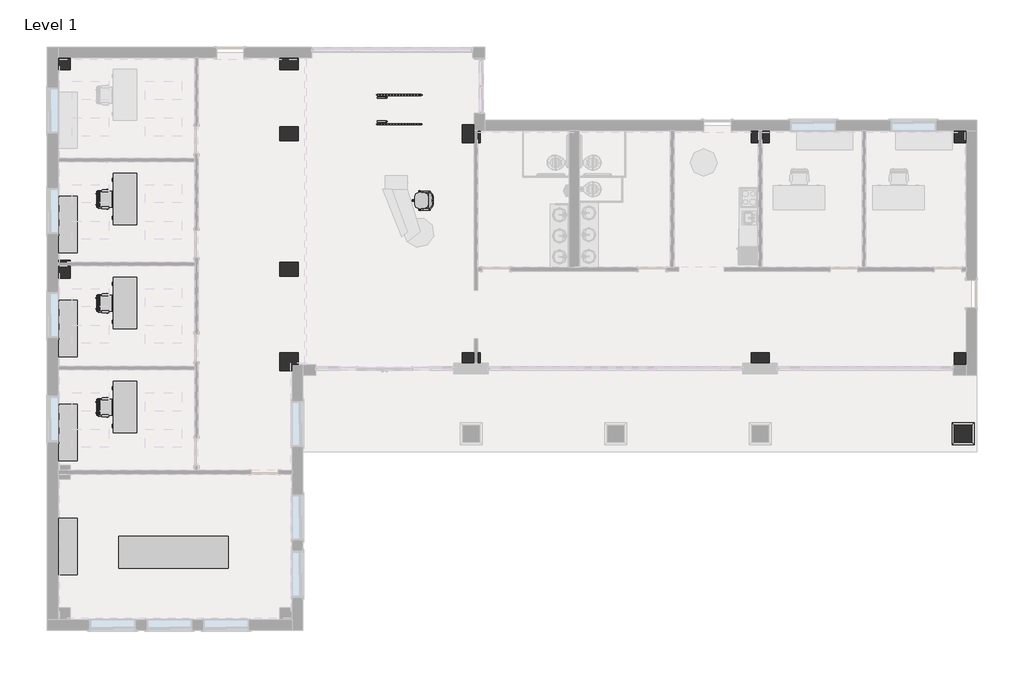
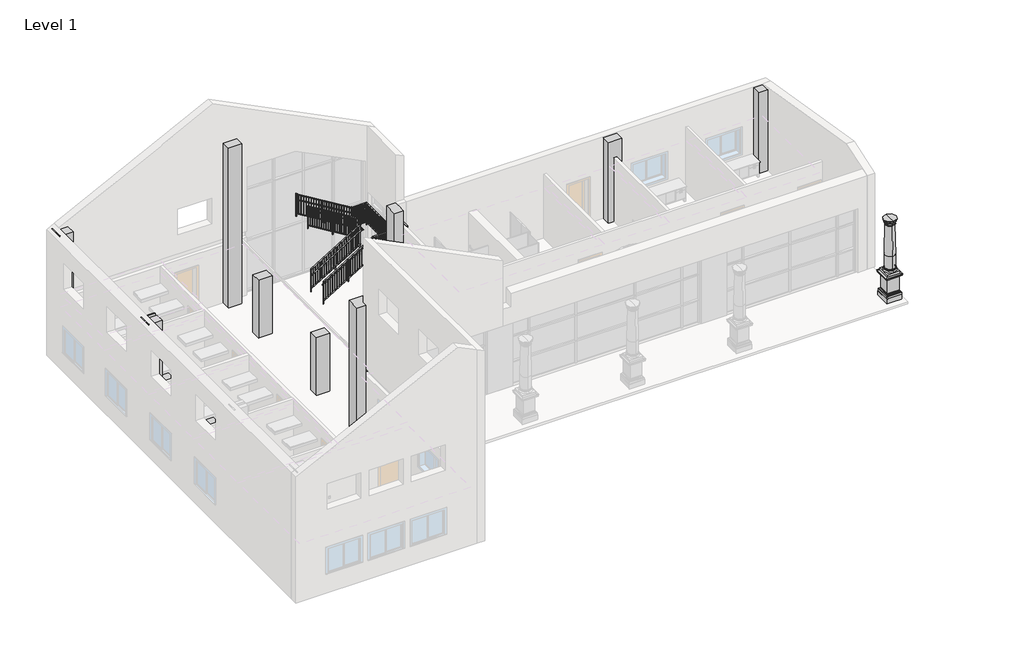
# One storey, part 7 of 8: 13 columns, 12 furniture elements, 2 railings.
"""IFC4 building model written with IfcOpenShell, lengths in millimetres."""

from ifc_helpers import new_model, si_unit, point, frame, origin, origin_with_axes, place, context, project, spatial, polyline, circle_curve, ellipse_curve, trimmed, outline, extrude, faceted_brep, transform, mapped, element, save
from ifc_brep_helpers import plane_surface, cylinder_surface, revolved_surface, advanced_brep
from components import chair_executive_chair_executive_8d69e98c, chair_task_arms_chair_task_arms_8395c10b, conference_table_complete_42_x_144_00e9c4b6, furniture_5a5a5c8e, furniture_9d33da18, ldc_handrail_pipe_vertical_balusters_fcc166f6, ldc_handrail_pipe_vertical_balusters_f98cdef8, ldc_handrail_pipe_vertical_balusters_a562cb55, ldc_handrail_pipe_vertical_balusters_60b1d99e, ldc_handrail_pipe_vertical_balusters_fc0078cb, ldc_handrail_pipe_vertical_balusters_81ec86d5

model = new_model("IFC4")

# Units and contexts
model_context = context("Model", 3, world=origin())
ifc_project = project(units=[si_unit("LENGTHUNIT", "METRE", prefix="MILLI")], contexts=[model_context])

# Site, building, storey
site = spatial("IfcSite", under=ifc_project)
building = spatial("IfcBuilding", under=site)
storey = spatial("IfcBuildingStorey", under=building, Name="Level 1", Elevation=0.0)

# Columns
placement = place(None, origin())
element("IfcColumn", 1, ObjectType="Doric Column : 16'  Height (10 2/3 x Dia.)", at=placement, inside=storey, context=model_context, shape_type="SolidModel", body=[
    extrude(outline(polyline([(16988.3733448, -1720.0769576), (16988.3733448, -2297.9269576), (16410.5233448, -2297.9269576), (16410.5233448, -1720.0769576), (16988.3733448, -1720.0769576)])), frame((0.0, 0.0, 1117.6), z_axis=(0.0, 0.0, 1.0), x_axis=(1.0, 0.0, 0.0)), (0.0, 0.0, 1.0), 107.95),
    faceted_brep([(16470.8483448, -2237.6019576, 1117.6), (16327.9733448, -2380.4769576, 1117.6), (17070.9233448, -2380.4769576, 1117.6), (16928.0483448, -2237.6019576, 1117.6), (16470.8483448, -2237.6019576, 1003.3), (16928.0483448, -2237.6019576, 1003.3), (16399.5654277, -2308.8848746, 1003.3), (16999.3312619, -2308.8848746, 1003.3), (16366.0733448, -2342.3769576, 1028.7), (17032.8233448, -2342.3769576, 1028.7), (16340.6733448, -2367.7769576, 1028.7), (17058.2233448, -2367.7769576, 1028.7), (16340.6733448, -2367.7769576, 1092.2), (17058.2233448, -2367.7769576, 1092.2), (16327.9733448, -2380.4769576, 1092.2), (17070.9233448, -2380.4769576, 1092.2), (17070.9233448, -1637.5269576, 1117.6), (16928.0483448, -1780.4019576, 1117.6), (16928.0483448, -1780.4019576, 1003.3), (16999.3312619, -1709.1190405, 1003.3), (17032.8233448, -1675.6269576, 1028.7), (17058.2233448, -1650.2269576, 1028.7), (17058.2233448, -1650.2269576, 1092.2), (17070.9233448, -1637.5269576, 1092.2), (16327.9733448, -1637.5269576, 1117.6), (16470.8483448, -1780.4019576, 1117.6), (16470.8483448, -1780.4019576, 1003.3), (16399.5654277, -1709.1190405, 1003.3), (16366.0733448, -1675.6269576, 1028.7), (16340.6733448, -1650.2269576, 1028.7), (16340.6733448, -1650.2269576, 1092.2), (16327.9733448, -1637.5269576, 1092.2)], [[[0, 1, 2, 3]], [[4, 0, 3, 5]], [[6, 4, 5, 7]], [[8, 6, 7, 9]], [[10, 8, 9, 11]], [[12, 10, 11, 13]], [[14, 12, 13, 15]], [[1, 14, 15, 2]], [[3, 2, 16, 17]], [[5, 3, 17, 18]], [[7, 5, 18, 19]], [[9, 7, 19, 20]], [[11, 9, 20, 21]], [[13, 11, 21, 22]], [[15, 13, 22, 23]], [[2, 15, 23, 16]], [[17, 16, 24, 25]], [[18, 17, 25, 26]], [[19, 18, 26, 27]], [[20, 19, 27, 28]], [[21, 20, 28, 29]], [[22, 21, 29, 30]], [[23, 22, 30, 31]], [[16, 23, 31, 24]], [[25, 24, 1, 0]], [[26, 25, 0, 4]], [[27, 26, 4, 6]], [[28, 27, 6, 8]], [[29, 28, 8, 10]], [[30, 29, 10, 12]], [[31, 30, 12, 14]], [[24, 31, 14, 1]]]),
    advanced_brep(
    [(16699.4483448, -2256.6519576, 1358.9), (16699.4483448, -1761.3519576, 1358.9), (16699.4483448, -1780.4019576, 1377.95), (16699.4483448, -2237.6019576, 1377.95), (16699.4483448, -1780.4019576, 1976.1708333), (16699.4483448, -2237.6019576, 1976.1708333), (16699.4483448, -2256.6519576, 1339.85), (16699.4483448, -1761.3519576, 1339.85), (16699.4483448, -2256.6519576, 1308.1), (16699.4483448, -1761.3519576, 1308.1), (16699.4483448, -2256.6519576, 1225.55), (16699.4483448, -1761.3519576, 1225.55), (16699.4483448, -2009.0019576, 1225.55), (16699.4483448, -1808.9769576, 3439.3125), (16699.4483448, -2209.0269576, 3439.3125), (16699.4483448, -2301.1019576, 3674.2625601), (16699.4483448, -1716.9019576, 3674.2625601), (16699.4483448, -1716.9019576, 3693.3125), (16699.4483448, -2301.1019576, 3693.3125), (16699.4483448, -2009.0019576, 3693.3125), (16699.4483448, -2282.0518974, 3655.2125), (16699.4483448, -1735.9520177, 3655.2125), (16699.4483448, -2278.8769576, 3655.2125), (16699.4483448, -1739.1269576, 3655.2125), (16699.4483448, -2278.8769576, 3604.4125), (16699.4483448, -1739.1269576, 3604.4125), (16699.4483448, -2272.5269576, 3604.4125), (16699.4483448, -1745.4769576, 3604.4125), (16699.4483448, -2228.0769576, 3559.9625), (16699.4483448, -1789.9269576, 3559.9625), (16699.4483448, -2228.0769576, 3540.9125), (16699.4483448, -1789.9269576, 3540.9125), (16699.4483448, -2209.0269576, 3540.9125), (16699.4483448, -1808.9769576, 3540.9125), (16699.4483448, -2209.0269576, 3458.3625), (16699.4483448, -1808.9769576, 3458.3625), (16699.4483448, -2228.0769576, 3458.3625), (16699.4483448, -1789.9269576, 3458.3625), (16699.4483448, -2228.0769576, 3439.3125), (16699.4483448, -1789.9269576, 3439.3125)],
    [
        (0, 1, circle_curve(frame((16699.4483448, -2009.0019576, 1358.9), z_axis=(0.0, 0.0, 1.0), x_axis=(0.0, 1.0, 0.0)), 247.65)),
        (1, 2, circle_curve(frame((16699.4483448, -1761.3519576, 1377.95), z_axis=(-1.0, 0.0, 0.0), x_axis=(0.0, -1.0, 0.0)), 19.05)),
        (2, 3, circle_curve(frame((16699.4483448, -2009.0019576, 1377.95), z_axis=(0.0, 0.0, -1.0), x_axis=(0.0, 1.0, 0.0)), 228.6)),
        (3, 0, circle_curve(frame((16699.4483448, -2256.6519576, 1377.95), z_axis=(-1.0, 0.0, 0.0), x_axis=(0.0, 1.0, 0.0)), 19.05)),
        (2, 4),
        (4, 5, circle_curve(frame((16699.4483448, -2009.0019576, 1976.1708333), z_axis=(0.0, 0.0, -1.0), x_axis=(0.0, 1.0, 0.0)), 228.6)),
        (5, 3),
        (2, 3, circle_curve(frame((16699.4483448, -2009.0019576, 1377.95), z_axis=(0.0, 0.0, 1.0), x_axis=(0.0, 1.0, 0.0)), 228.6)),
        (5, 4, circle_curve(frame((16699.4483448, -2009.0019576, 1976.1708333), z_axis=(0.0, 0.0, -1.0), x_axis=(0.0, 1.0, 0.0)), 228.6)),
        (1, 0, circle_curve(frame((16699.4483448, -2009.0019576, 1358.9), z_axis=(0.0, 0.0, 1.0), x_axis=(0.0, 1.0, 0.0)), 247.65)),
        (6, 7, circle_curve(frame((16699.4483448, -2009.0019576, 1339.85), z_axis=(0.0, 0.0, 1.0), x_axis=(0.0, 1.0, 0.0)), 247.65)),
        (7, 1),
        (0, 6),
        (7, 6, circle_curve(frame((16699.4483448, -2009.0019576, 1339.85), z_axis=(0.0, 0.0, 1.0), x_axis=(0.0, 1.0, 0.0)), 247.65)),
        (8, 9, circle_curve(frame((16699.4483448, -2009.0019576, 1308.1), z_axis=(0.0, 0.0, 1.0), x_axis=(0.0, 1.0, 0.0)), 247.65)),
        (9, 7, circle_curve(frame((16699.4483448, -1761.3519576, 1323.975), z_axis=(1.0, 0.0, 0.0), x_axis=(0.0, -1.0, 0.0)), 15.875)),
        (6, 8, circle_curve(frame((16699.4483448, -2256.6519576, 1323.975), z_axis=(1.0, 0.0, 0.0), x_axis=(0.0, 1.0, 0.0)), 15.875)),
        (9, 8, circle_curve(frame((16699.4483448, -2009.0019576, 1308.1), z_axis=(0.0, 0.0, 1.0), x_axis=(0.0, 1.0, 0.0)), 247.65)),
        (10, 11, circle_curve(frame((16699.4483448, -2009.0019576, 1225.55), z_axis=(0.0, 0.0, 1.0), x_axis=(0.0, 1.0, 0.0)), 247.65)),
        (11, 9, circle_curve(frame((16699.4483448, -1761.3519576, 1266.825), z_axis=(1.0, 0.0, 0.0), x_axis=(0.0, -1.0, 0.0)), 41.275)),
        (8, 10, circle_curve(frame((16699.4483448, -2256.6519576, 1266.825), z_axis=(1.0, 0.0, 0.0), x_axis=(0.0, 1.0, 0.0)), 41.275)),
        (11, 10, circle_curve(frame((16699.4483448, -2009.0019576, 1225.55), z_axis=(0.0, 0.0, 1.0), x_axis=(0.0, 1.0, 0.0)), 247.65)),
        (12, 11),
        (10, 12),
        (4, 13),
        (13, 14, circle_curve(frame((16699.4483448, -2009.0019576, 3439.3125), z_axis=(0.0, 0.0, -1.0), x_axis=(0.0, 1.0, 0.0)), 200.025)),
        (14, 5),
        (14, 13, circle_curve(frame((16699.4483448, -2009.0019576, 3439.3125), z_axis=(0.0, 0.0, -1.0), x_axis=(0.0, 1.0, 0.0)), 200.025)),
        (15, 16, circle_curve(frame((16699.4483448, -2009.0019576, 3674.2625601), z_axis=(0.0, 0.0, 1.0), x_axis=(0.0, 1.0, 0.0)), 292.1)),
        (16, 17),
        (17, 18, circle_curve(frame((16699.4483448, -2009.0019576, 3693.3125), z_axis=(0.0, 0.0, -1.0), x_axis=(0.0, 1.0, 0.0)), 292.1)),
        (18, 15),
        (17, 19),
        (19, 18),
        (17, 18, circle_curve(frame((16699.4483448, -2009.0019576, 3693.3125), z_axis=(0.0, 0.0, 1.0), x_axis=(0.0, 1.0, 0.0)), 292.1)),
        (16, 15, circle_curve(frame((16699.4483448, -2009.0019576, 3674.2625601), z_axis=(0.0, 0.0, 1.0), x_axis=(0.0, 1.0, 0.0)), 292.1)),
        (20, 21, circle_curve(frame((16699.4483448, -2009.0019576, 3655.2125), z_axis=(0.0, 0.0, 1.0), x_axis=(0.0, 1.0, 0.0)), 273.0499399)),
        (21, 16, circle_curve(frame((16699.4483448, -1716.9019576, 3655.2125), z_axis=(-1.0, 0.0, 0.0), x_axis=(0.0, -1.0, 0.0)), 19.0500601)),
        (15, 20, circle_curve(frame((16699.4483448, -2301.1019576, 3655.2125), z_axis=(-1.0, 0.0, 0.0), x_axis=(0.0, 1.0, 0.0)), 19.0500601)),
        (21, 20, circle_curve(frame((16699.4483448, -2009.0019576, 3655.2125), z_axis=(0.0, 0.0, 1.0), x_axis=(0.0, 1.0, 0.0)), 273.0499399)),
        (22, 23, circle_curve(frame((16699.4483448, -2009.0019576, 3655.2125), z_axis=(0.0, 0.0, 1.0), x_axis=(0.0, 1.0, 0.0)), 269.875)),
        (23, 21),
        (20, 22),
        (23, 22, circle_curve(frame((16699.4483448, -2009.0019576, 3655.2125), z_axis=(0.0, 0.0, 1.0), x_axis=(0.0, 1.0, 0.0)), 269.875)),
        (24, 25, circle_curve(frame((16699.4483448, -2009.0019576, 3604.4125), z_axis=(0.0, 0.0, 1.0), x_axis=(0.0, 1.0, 0.0)), 269.875)),
        (25, 23),
        (22, 24),
        (25, 24, circle_curve(frame((16699.4483448, -2009.0019576, 3604.4125), z_axis=(0.0, 0.0, 1.0), x_axis=(0.0, 1.0, 0.0)), 269.875)),
        (26, 27, circle_curve(frame((16699.4483448, -2009.0019576, 3604.4125), z_axis=(0.0, 0.0, 1.0), x_axis=(0.0, 1.0, 0.0)), 263.525)),
        (27, 25),
        (24, 26),
        (27, 26, circle_curve(frame((16699.4483448, -2009.0019576, 3604.4125), z_axis=(0.0, 0.0, 1.0), x_axis=(0.0, 1.0, 0.0)), 263.525)),
        (28, 29, circle_curve(frame((16699.4483448, -2009.0019576, 3559.9625), z_axis=(0.0, 0.0, 1.0), x_axis=(0.0, 1.0, 0.0)), 219.075)),
        (29, 27, circle_curve(frame((16699.4483448, -1789.9269576, 3604.4125), z_axis=(1.0, 0.0, 0.0), x_axis=(0.0, -1.0, 0.0)), 44.45)),
        (26, 28, circle_curve(frame((16699.4483448, -2228.0769576, 3604.4125), z_axis=(1.0, 0.0, 0.0), x_axis=(0.0, 1.0, 0.0)), 44.45)),
        (29, 28, circle_curve(frame((16699.4483448, -2009.0019576, 3559.9625), z_axis=(0.0, 0.0, 1.0), x_axis=(0.0, 1.0, 0.0)), 219.075)),
        (30, 31, circle_curve(frame((16699.4483448, -2009.0019576, 3540.9125), z_axis=(0.0, 0.0, 1.0), x_axis=(0.0, 1.0, 0.0)), 219.075)),
        (31, 29, circle_curve(frame((16699.4483448, -1789.9269576, 3550.4375), z_axis=(1.0, 0.0, 0.0), x_axis=(0.0, -1.0, 0.0)), 9.525)),
        (28, 30, circle_curve(frame((16699.4483448, -2228.0769576, 3550.4375), z_axis=(1.0, 0.0, 0.0), x_axis=(0.0, 1.0, 0.0)), 9.525)),
        (31, 30, circle_curve(frame((16699.4483448, -2009.0019576, 3540.9125), z_axis=(0.0, 0.0, 1.0), x_axis=(0.0, 1.0, 0.0)), 219.075)),
        (32, 33, circle_curve(frame((16699.4483448, -2009.0019576, 3540.9125), z_axis=(0.0, 0.0, 1.0), x_axis=(0.0, 1.0, 0.0)), 200.025)),
        (33, 31),
        (30, 32),
        (33, 32, circle_curve(frame((16699.4483448, -2009.0019576, 3540.9125), z_axis=(0.0, 0.0, 1.0), x_axis=(0.0, 1.0, 0.0)), 200.025)),
        (34, 35, circle_curve(frame((16699.4483448, -2009.0019576, 3458.3625), z_axis=(0.0, 0.0, 1.0), x_axis=(0.0, 1.0, 0.0)), 200.025)),
        (35, 33),
        (32, 34),
        (35, 34, circle_curve(frame((16699.4483448, -2009.0019576, 3458.3625), z_axis=(0.0, 0.0, 1.0), x_axis=(0.0, 1.0, 0.0)), 200.025)),
        (36, 37, circle_curve(frame((16699.4483448, -2009.0019576, 3458.3625), z_axis=(0.0, 0.0, 1.0), x_axis=(0.0, 1.0, 0.0)), 219.075)),
        (37, 35),
        (34, 36),
        (37, 36, circle_curve(frame((16699.4483448, -2009.0019576, 3458.3625), z_axis=(0.0, 0.0, 1.0), x_axis=(0.0, 1.0, 0.0)), 219.075)),
        (38, 39, circle_curve(frame((16699.4483448, -2009.0019576, 3439.3125), z_axis=(0.0, 0.0, 1.0), x_axis=(0.0, 1.0, 0.0)), 219.075)),
        (39, 37, circle_curve(frame((16699.4483448, -1789.9269576, 3448.8375), z_axis=(1.0, 0.0, 0.0), x_axis=(0.0, -1.0, 0.0)), 9.525)),
        (36, 38, circle_curve(frame((16699.4483448, -2228.0769576, 3448.8375), z_axis=(1.0, 0.0, 0.0), x_axis=(0.0, 1.0, 0.0)), 9.525)),
        (39, 38, circle_curve(frame((16699.4483448, -2009.0019576, 3439.3125), z_axis=(0.0, 0.0, 1.0), x_axis=(0.0, 1.0, 0.0)), 219.075)),
        (13, 39),
        (38, 14),
    ],
    [
        revolved_surface(trimmed(ellipse_curve(frame((16699.4483448, -1761.3519576, 1377.95), z_axis=(1.0, 0.0, 0.0), x_axis=(0.0, -1.0, 0.0)), 19.05, 19.05), [point((16699.4483448, -1780.4019576, 1377.95))], [point((16699.4483448, -1761.3519576, 1358.9))], True, "CARTESIAN"), (16699.4483448, -2009.0019576, 3693.3125), (0.0, 0.0, -1.0)),
        cylinder_surface(frame((16699.4483448, -2009.0019576, 3693.3125), z_axis=(0.0, 0.0, -1.0), x_axis=(0.0, 1.0, 0.0)), 228.6),
        cylinder_surface(frame((16699.4483448, -2009.0019576, 3693.3125), z_axis=(0.0, 0.0, -1.0), x_axis=(0.0, 1.0, 0.0)), 247.65),
        revolved_surface(trimmed(ellipse_curve(frame((16699.4483448, -1761.3519576, 1323.975), z_axis=(-1.0, 0.0, 0.0), x_axis=(0.0, -1.0, 0.0)), 15.875, 15.875), [point((16699.4483448, -1761.3519576, 1339.85))], [point((16699.4483448, -1761.3519576, 1308.1))], True, "CARTESIAN"), (16699.4483448, -2009.0019576, 3693.3125), (0.0, 0.0, -1.0)),
        revolved_surface(trimmed(ellipse_curve(frame((16699.4483448, -1761.3519576, 1266.825), z_axis=(-1.0, 0.0, 0.0), x_axis=(0.0, -1.0, 0.0)), 41.275, 41.275), [point((16699.4483448, -1761.3519576, 1308.1))], [point((16699.4483448, -1761.3519576, 1225.55))], True, "CARTESIAN"), (16699.4483448, -2009.0019576, 3693.3125), (0.0, 0.0, -1.0)),
        plane_surface(frame((16699.4483448, -2009.0019576, 1225.55), z_axis=(0.0, 0.0, -1.0), x_axis=(0.0, 1.0, 0.0))),
        revolved_surface(polyline([(16699.4483448, -1808.9769576, 3439.3125), (16699.4483448, -1780.4019576, 1976.1708333)]), (16699.4483448, -2009.0019576, 3693.3125), (0.0, 0.0, -1.0)),
        cylinder_surface(frame((16699.4483448, -2009.0019576, 3693.3125), z_axis=(0.0, 0.0, -1.0), x_axis=(0.0, 1.0, 0.0)), 292.1),
        plane_surface(frame((16699.4483448, -2009.0019576, 3693.3125), z_axis=(0.0, 0.0, 1.0), x_axis=(0.0, 1.0, 0.0))),
        revolved_surface(trimmed(ellipse_curve(frame((16699.4483448, -1716.9019576, 3655.2125), z_axis=(1.0, 0.0, 0.0), x_axis=(0.0, -1.0, 0.0)), 19.0500601, 19.0500601), [point((16699.4483448, -1716.9019576, 3674.2625601))], [point((16699.4483448, -1735.9520177, 3655.2125))], True, "CARTESIAN"), (16699.4483448, -2009.0019576, 3693.3125), (0.0, 0.0, -1.0)),
        plane_surface(frame((16699.4483448, -2009.0019576, 3655.2125), z_axis=(0.0, 0.0, -1.0), x_axis=(0.0, 1.0, 0.0))),
        cylinder_surface(frame((16699.4483448, -2009.0019576, 3693.3125), z_axis=(0.0, 0.0, -1.0), x_axis=(0.0, 1.0, 0.0)), 269.875),
        plane_surface(frame((16699.4483448, -2009.0019576, 3604.4125), z_axis=(0.0, 0.0, -1.0), x_axis=(0.0, 1.0, 0.0))),
        revolved_surface(trimmed(ellipse_curve(frame((16699.4483448, -1789.9269576, 3604.4125), z_axis=(-1.0, 0.0, 0.0), x_axis=(0.0, -1.0, 0.0)), 44.45, 44.45), [point((16699.4483448, -1745.4769576, 3604.4125))], [point((16699.4483448, -1789.9269576, 3559.9625))], True, "CARTESIAN"), (16699.4483448, -2009.0019576, 3693.3125), (0.0, 0.0, -1.0)),
        revolved_surface(trimmed(ellipse_curve(frame((16699.4483448, -1789.9269576, 3550.4375), z_axis=(-1.0, 0.0, 0.0), x_axis=(0.0, -1.0, 0.0)), 9.525, 9.525), [point((16699.4483448, -1789.9269576, 3559.9625))], [point((16699.4483448, -1789.9269576, 3540.9125))], True, "CARTESIAN"), (16699.4483448, -2009.0019576, 3693.3125), (0.0, 0.0, -1.0)),
        plane_surface(frame((16699.4483448, -2009.0019576, 3540.9125), z_axis=(0.0, 0.0, -1.0), x_axis=(0.0, 1.0, 0.0))),
        cylinder_surface(frame((16699.4483448, -2009.0019576, 3693.3125), z_axis=(0.0, 0.0, -1.0), x_axis=(0.0, 1.0, 0.0)), 200.025),
        plane_surface(frame((16699.4483448, -2009.0019576, 3458.3625), z_axis=(0.0, 0.0, 1.0), x_axis=(0.0, 1.0, 0.0))),
        revolved_surface(trimmed(ellipse_curve(frame((16699.4483448, -1789.9269576, 3448.8375), z_axis=(-1.0, 0.0, 0.0), x_axis=(0.0, -1.0, 0.0)), 9.525, 9.525), [point((16699.4483448, -1789.9269576, 3458.3625))], [point((16699.4483448, -1789.9269576, 3439.3125))], True, "CARTESIAN"), (16699.4483448, -2009.0019576, 3693.3125), (0.0, 0.0, -1.0)),
        plane_surface(frame((16699.4483448, -2009.0019576, 3439.3125), z_axis=(0.0, 0.0, -1.0), x_axis=(0.0, 1.0, 0.0))),
    ],
    [
        (0, [[1, 2, 3, 4]]),
        (1, [[-3, 5, 6, 7]]),
        (1, [[8, -7, 9, -5]]),
        (0, [[10, -4, -8, -2]]),
        (2, [[11, 12, -1, 13]]),
        (2, [[14, -13, -10, -12]]),
        (3, [[15, 16, -11, 17]]),
        (3, [[18, -17, -14, -16]]),
        (4, [[19, 20, -15, 21]]),
        (4, [[22, -21, -18, -20]]),
        (5, [[23, -19, 24]]),
        (5, [[-24, -22, -23]]),
        (6, [[-6, 25, 26, 27]]),
        (6, [[-9, -27, 28, -25]]),
        (7, [[29, 30, 31, 32]]),
        (8, [[-31, 33, 34]]),
        (8, [[35, -34, -33]]),
        (7, [[36, -32, -35, -30]]),
        (9, [[37, 38, -29, 39]]),
        (9, [[40, -39, -36, -38]]),
        (10, [[41, 42, -37, 43]]),
        (10, [[44, -43, -40, -42]]),
        (11, [[45, 46, -41, 47]]),
        (11, [[48, -47, -44, -46]]),
        (12, [[49, 50, -45, 51]]),
        (12, [[52, -51, -48, -50]]),
        (13, [[53, 54, -49, 55]]),
        (13, [[56, -55, -52, -54]]),
        (14, [[57, 58, -53, 59]]),
        (14, [[60, -59, -56, -58]]),
        (15, [[61, 62, -57, 63]]),
        (15, [[64, -63, -60, -62]]),
        (16, [[65, 66, -61, 67]]),
        (16, [[68, -67, -64, -66]]),
        (17, [[69, 70, -65, 71]]),
        (17, [[72, -71, -68, -70]]),
        (18, [[73, 74, -69, 75]]),
        (18, [[76, -75, -72, -74]]),
        (19, [[-26, 77, -73, 78]]),
        (19, [[-28, -78, -76, -77]]),
    ],
),
    advanced_brep(
    [(17044.8934911, -1663.5568112, -101.6), (17044.8934911, -1663.5568112, 127.0), (17044.8934911, -2354.4471039, 127.0), (17044.8934911, -2354.4471039, -101.6), (16928.0483448, -1780.4019576, -101.6), (16928.0483448, -2237.6019576, -101.6), (16928.0483448, -1780.4019576, 317.5), (16928.0483448, -2237.6019576, 317.5), (16962.3434911, -1746.1068112, 317.5), (16962.3434911, -2271.8971039, 317.5), (16981.3934911, -1727.0568112, 298.45), (16981.3934911, -2290.9471039, 298.45), (16981.3934911, -1727.0568112, 279.4), (16981.3934911, -2290.9471039, 279.4), (17003.6184911, -1704.8318112, 257.175), (17003.6184911, -2313.1721039, 257.175), (17025.8434911, -1682.6068112, 234.95), (17025.8434911, -2335.3971039, 234.95), (17025.8434911, -1682.6068112, 215.9), (17025.8434911, -2335.3971039, 215.9), (17035.3684911, -1673.0818112, 215.9), (17035.3684911, -2344.9221039, 215.9), (17035.3684911, -1673.0818112, 127.0), (17035.3684911, -2344.9221039, 127.0), (16354.0031985, -2354.4471039, 127.0), (16354.0031985, -2354.4471039, -101.6), (16470.8483448, -2237.6019576, -101.6), (16470.8483448, -2237.6019576, 317.5), (16436.5531985, -2271.8971039, 317.5), (16417.5031985, -2290.9471039, 298.45), (16417.5031985, -2290.9471039, 279.4), (16395.2781985, -2313.1721039, 257.175), (16373.0531985, -2335.3971039, 234.95), (16373.0531985, -2335.3971039, 215.9), (16363.5281985, -2344.9221039, 215.9), (16363.5281985, -2344.9221039, 127.0), (16354.0031985, -1663.5568112, 127.0), (16354.0031985, -1663.5568112, -101.6), (16470.8483448, -1780.4019576, -101.6), (16470.8483448, -1780.4019576, 317.5), (16436.5531985, -1746.1068112, 317.5), (16417.5031985, -1727.0568112, 298.45), (16417.5031985, -1727.0568112, 279.4), (16395.2781985, -1704.8318112, 257.175), (16373.0531985, -1682.6068112, 234.95), (16373.0531985, -1682.6068112, 215.9), (16363.5281985, -1673.0818112, 215.9), (16363.5281985, -1673.0818112, 127.0)],
    [
        (0, 1),
        (1, 2),
        (2, 3),
        (3, 0),
        (4, 0),
        (3, 5),
        (5, 4),
        (6, 4),
        (5, 7),
        (7, 6),
        (8, 6),
        (7, 9),
        (9, 8),
        (10, 8, ellipse_curve(frame((16981.3934911, -1727.0568112, 317.5), z_axis=(-0.7071067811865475, 0.7071067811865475, 0.0), x_axis=(-0.7071067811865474, -0.7071067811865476, 0.0)), 26.9407684, 19.05)),
        (9, 11, ellipse_curve(frame((16981.3934911, -2290.9471039, 317.5), z_axis=(-0.7071067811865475, -0.7071067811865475, 0.0), x_axis=(0.7071067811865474, -0.7071067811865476, 0.0)), 26.9407684, 19.05)),
        (11, 10),
        (12, 10),
        (11, 13),
        (13, 12),
        (14, 12, ellipse_curve(frame((16981.3934911, -1727.0568112, 257.175), z_axis=(0.7071067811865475, -0.7071067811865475, 0.0), x_axis=(0.7071067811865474, 0.7071067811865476, 0.0)), 31.4308964, 22.225)),
        (13, 15, ellipse_curve(frame((16981.3934911, -2290.9471039, 257.175), z_axis=(0.7071067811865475, 0.7071067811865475, 0.0), x_axis=(-0.7071067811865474, 0.7071067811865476, 0.0)), 31.4308964, 22.225)),
        (15, 14),
        (16, 14, ellipse_curve(frame((17025.8434911, -1682.6068112, 257.175), z_axis=(-0.7071067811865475, 0.7071067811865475, 0.0), x_axis=(-0.7071067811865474, -0.7071067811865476, 0.0)), 31.4308964, 22.225)),
        (15, 17, ellipse_curve(frame((17025.8434911, -2335.3971039, 257.175), z_axis=(-0.7071067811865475, -0.7071067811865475, 0.0), x_axis=(0.7071067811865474, -0.7071067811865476, 0.0)), 31.4308964, 22.225)),
        (17, 16),
        (18, 16),
        (17, 19),
        (19, 18),
        (20, 18),
        (19, 21),
        (21, 20),
        (22, 20),
        (21, 23),
        (23, 22),
        (1, 22),
        (23, 2),
        (2, 24),
        (24, 25),
        (25, 3),
        (25, 26),
        (26, 5),
        (26, 27),
        (27, 7),
        (27, 28),
        (28, 9),
        (28, 29, ellipse_curve(frame((16417.5031985, -2290.9471039, 317.5), z_axis=(-0.7071067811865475, 0.7071067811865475, 0.0), x_axis=(-0.7071067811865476, -0.7071067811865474, 0.0)), 26.9407684, 19.05)),
        (29, 11),
        (29, 30),
        (30, 13),
        (30, 31, ellipse_curve(frame((16417.5031985, -2290.9471039, 257.175), z_axis=(0.7071067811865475, -0.7071067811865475, 0.0), x_axis=(0.7071067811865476, 0.7071067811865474, 0.0)), 31.4308964, 22.225)),
        (31, 15),
        (31, 32, ellipse_curve(frame((16373.0531985, -2335.3971039, 257.175), z_axis=(-0.7071067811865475, 0.7071067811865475, 0.0), x_axis=(-0.7071067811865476, -0.7071067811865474, 0.0)), 31.4308964, 22.225)),
        (32, 17),
        (32, 33),
        (33, 19),
        (33, 34),
        (34, 21),
        (34, 35),
        (35, 23),
        (35, 24),
        (24, 36),
        (36, 37),
        (37, 25),
        (37, 38),
        (38, 26),
        (38, 39),
        (39, 27),
        (39, 40),
        (40, 28),
        (40, 41, ellipse_curve(frame((16417.5031985, -1727.0568112, 317.5), z_axis=(0.7071067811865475, 0.7071067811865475, 0.0), x_axis=(-0.7071067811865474, 0.7071067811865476, 0.0)), 26.9407684, 19.05)),
        (41, 29),
        (41, 42),
        (42, 30),
        (42, 43, ellipse_curve(frame((16417.5031985, -1727.0568112, 257.175), z_axis=(-0.7071067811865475, -0.7071067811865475, 0.0), x_axis=(0.7071067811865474, -0.7071067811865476, 0.0)), 31.4308964, 22.225)),
        (43, 31),
        (43, 44, ellipse_curve(frame((16373.0531985, -1682.6068112, 257.175), z_axis=(0.7071067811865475, 0.7071067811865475, 0.0), x_axis=(-0.7071067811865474, 0.7071067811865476, 0.0)), 31.4308964, 22.225)),
        (44, 32),
        (44, 45),
        (45, 33),
        (45, 46),
        (46, 34),
        (46, 47),
        (47, 35),
        (47, 36),
        (36, 1),
        (0, 37),
        (4, 38),
        (6, 39),
        (8, 40),
        (10, 41),
        (12, 42),
        (14, 43),
        (16, 44),
        (18, 45),
        (20, 46),
        (22, 47),
    ],
    [
        plane_surface(frame((17044.8934911, -1663.5568112, 127.0), z_axis=(1.0, 0.0, 0.0), x_axis=(0.0, -1.0, 0.0))),
        plane_surface(frame((17044.8934911, -1663.5568112, -101.6), z_axis=(0.0, 0.0, -1.0), x_axis=(0.0, -1.0, 0.0))),
        plane_surface(frame((16928.0483448, -1780.4019576, -101.6), z_axis=(-1.0, 0.0, 0.0), x_axis=(0.0, -1.0, 0.0))),
        plane_surface(frame((16928.0483448, -1780.4019576, 317.5), z_axis=(0.0, 0.0, 1.0), x_axis=(0.0, -1.0, 0.0))),
        revolved_surface(polyline([(17000.4434911, -2309.9971039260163, 317.5), (17000.4434911, -1708.0068111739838, 317.5)]), (16981.3934911, -1650.5418844, 317.5), (0.0, -1.0, 0.0)),
        plane_surface(frame((16981.3934911, -1727.0568112, 298.45), z_axis=(1.0, 0.0, 0.0), x_axis=(0.0, -1.0, 0.0))),
        cylinder_surface(frame((16981.3934911, -1650.5418844, 257.175), z_axis=(0.0, 1.0, 0.0), x_axis=(1.0, 0.0, 0.0)), 22.225),
        revolved_surface(polyline([(17048.0684911, -2357.622103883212, 257.175), (17048.0684911, -1660.3818112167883, 257.175)]), (17025.8434911, -1650.5418844, 257.175), (0.0, -1.0, 0.0)),
        plane_surface(frame((17025.8434911, -1682.6068112, 234.95), z_axis=(1.0, 0.0, 0.0), x_axis=(0.0, -1.0, 0.0))),
        plane_surface(frame((17025.8434911, -1682.6068112, 215.9), z_axis=(0.0, 0.0, 1.0), x_axis=(0.0, -1.0, 0.0))),
        plane_surface(frame((17035.3684911, -1673.0818112, 215.9), z_axis=(1.0, 0.0, 0.0), x_axis=(0.0, -1.0, 0.0))),
        plane_surface(frame((17035.3684911, -1673.0818112, 127.0), z_axis=(0.0, 0.0, 1.0), x_axis=(0.0, -1.0, 0.0))),
        plane_surface(frame((17044.8934911, -2354.4471039, 127.0), z_axis=(0.0, -1.0, 0.0), x_axis=(-1.0, 0.0, 0.0))),
        plane_surface(frame((17044.8934911, -2354.4471039, -101.6), z_axis=(0.0, 0.0, -1.0), x_axis=(-1.0, 0.0, 0.0))),
        plane_surface(frame((16928.0483448, -2237.6019576, -101.6), z_axis=(0.0, 1.0, 0.0), x_axis=(-1.0, 0.0, 0.0))),
        plane_surface(frame((16928.0483448, -2237.6019576, 317.5), z_axis=(0.0, 0.0, 1.0), x_axis=(-1.0, 0.0, 0.0))),
        revolved_surface(polyline([(16398.45319847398, -2309.9971039, 317.5), (17000.443491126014, -2309.9971039, 317.5)]), (17057.908418, -2290.9471039, 317.5), (-1.0, 0.0, 0.0)),
        plane_surface(frame((16981.3934911, -2290.9471039, 298.45), z_axis=(0.0, -1.0, 0.0), x_axis=(-1.0, 0.0, 0.0))),
        cylinder_surface(frame((17057.908418, -2290.9471039, 257.175), z_axis=(1.0, 0.0, 0.0), x_axis=(0.0, -1.0, 0.0)), 22.225),
        revolved_surface(polyline([(16350.828198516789, -2357.6221038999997, 257.175), (17048.068491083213, -2357.6221038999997, 257.175)]), (17057.908418, -2335.3971039, 257.175), (-1.0, 0.0, 0.0)),
        plane_surface(frame((17025.8434911, -2335.3971039, 234.95), z_axis=(0.0, -1.0, 0.0), x_axis=(-1.0, 0.0, 0.0))),
        plane_surface(frame((17025.8434911, -2335.3971039, 215.9), z_axis=(0.0, 0.0, 1.0), x_axis=(-1.0, 0.0, 0.0))),
        plane_surface(frame((17035.3684911, -2344.9221039, 215.9), z_axis=(0.0, -1.0, 0.0), x_axis=(-1.0, 0.0, 0.0))),
        plane_surface(frame((17035.3684911, -2344.9221039, 127.0), z_axis=(0.0, 0.0, 1.0), x_axis=(-1.0, 0.0, 0.0))),
        plane_surface(frame((16354.0031985, -2354.4471039, 127.0), z_axis=(-1.0, 0.0, 0.0), x_axis=(0.0, 1.0, 0.0))),
        plane_surface(frame((16354.0031985, -2354.4471039, -101.6), z_axis=(0.0, 0.0, -1.0), x_axis=(0.0, 1.0, 0.0))),
        plane_surface(frame((16470.8483448, -2237.6019576, -101.6), z_axis=(1.0, 0.0, 0.0), x_axis=(0.0, 1.0, 0.0))),
        plane_surface(frame((16470.8483448, -2237.6019576, 317.5), z_axis=(0.0, 0.0, 1.0), x_axis=(0.0, 1.0, 0.0))),
        revolved_surface(polyline([(16398.4531985, -1708.0068111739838, 317.5), (16398.4531985, -2309.9971039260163, 317.5)]), (16417.5031985, -2367.4620307, 317.5), (0.0, 1.0, 0.0)),
        plane_surface(frame((16417.5031985, -2290.9471039, 298.45), z_axis=(-1.0, 0.0, 0.0), x_axis=(0.0, 1.0, 0.0))),
        cylinder_surface(frame((16417.5031985, -2367.4620307, 257.175), z_axis=(0.0, -1.0, 0.0), x_axis=(-1.0, 0.0, 0.0)), 22.225),
        revolved_surface(polyline([(16350.8281985, -1660.3818112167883, 257.175), (16350.8281985, -2357.622103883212, 257.175)]), (16373.0531985, -2367.4620307, 257.175), (0.0, 1.0, 0.0)),
        plane_surface(frame((16373.0531985, -2335.3971039, 234.95), z_axis=(-1.0, 0.0, 0.0), x_axis=(0.0, 1.0, 0.0))),
        plane_surface(frame((16373.0531985, -2335.3971039, 215.9), z_axis=(0.0, 0.0, 1.0), x_axis=(0.0, 1.0, 0.0))),
        plane_surface(frame((16363.5281985, -2344.9221039, 215.9), z_axis=(-1.0, 0.0, 0.0), x_axis=(0.0, 1.0, 0.0))),
        plane_surface(frame((16363.5281985, -2344.9221039, 127.0), z_axis=(0.0, 0.0, 1.0), x_axis=(0.0, 1.0, 0.0))),
        plane_surface(frame((16354.0031985, -1663.5568112, 127.0), z_axis=(0.0, 1.0, 0.0), x_axis=(1.0, 0.0, 0.0))),
        plane_surface(frame((16354.0031985, -1663.5568112, -101.6), z_axis=(0.0, 0.0, -1.0), x_axis=(1.0, 0.0, 0.0))),
        plane_surface(frame((16470.8483448, -1780.4019576, -101.6), z_axis=(0.0, -1.0, 0.0), x_axis=(1.0, 0.0, 0.0))),
        plane_surface(frame((16470.8483448, -1780.4019576, 317.5), z_axis=(0.0, 0.0, 1.0), x_axis=(1.0, 0.0, 0.0))),
        revolved_surface(polyline([(17000.443491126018, -1708.0068112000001, 317.5), (16398.453198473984, -1708.0068112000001, 317.5)]), (16340.9882717, -1727.0568112, 317.5), (1.0, 0.0, 0.0)),
        plane_surface(frame((16417.5031985, -1727.0568112, 298.45), z_axis=(0.0, 1.0, 0.0), x_axis=(1.0, 0.0, 0.0))),
        cylinder_surface(frame((16340.9882717, -1727.0568112, 257.175), z_axis=(-1.0, 0.0, 0.0), x_axis=(0.0, 1.0, 0.0)), 22.225),
        revolved_surface(polyline([(17048.068491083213, -1660.3818112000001, 257.175), (16350.828198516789, -1660.3818112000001, 257.175)]), (16340.9882717, -1682.6068112, 257.175), (1.0, 0.0, 0.0)),
        plane_surface(frame((16373.0531985, -1682.6068112, 234.95), z_axis=(0.0, 1.0, 0.0), x_axis=(1.0, 0.0, 0.0))),
        plane_surface(frame((16373.0531985, -1682.6068112, 215.9), z_axis=(0.0, 0.0, 1.0), x_axis=(1.0, 0.0, 0.0))),
        plane_surface(frame((16363.5281985, -1673.0818112, 215.9), z_axis=(0.0, 1.0, 0.0), x_axis=(1.0, 0.0, 0.0))),
        plane_surface(frame((16363.5281985, -1673.0818112, 127.0), z_axis=(0.0, 0.0, 1.0), x_axis=(1.0, 0.0, 0.0))),
    ],
    [
        (0, [[1, 2, 3, 4]]),
        (1, [[5, -4, 6, 7]]),
        (2, [[8, -7, 9, 10]]),
        (3, [[11, -10, 12, 13]]),
        (4, [[14, -13, 15, 16]]),
        (5, [[17, -16, 18, 19]]),
        (6, [[20, -19, 21, 22]]),
        (7, [[23, -22, 24, 25]]),
        (8, [[26, -25, 27, 28]]),
        (9, [[29, -28, 30, 31]]),
        (10, [[32, -31, 33, 34]]),
        (11, [[35, -34, 36, -2]]),
        (12, [[-3, 37, 38, 39]]),
        (13, [[-6, -39, 40, 41]]),
        (14, [[-9, -41, 42, 43]]),
        (15, [[-12, -43, 44, 45]]),
        (16, [[-15, -45, 46, 47]]),
        (17, [[-18, -47, 48, 49]]),
        (18, [[-21, -49, 50, 51]]),
        (19, [[-24, -51, 52, 53]]),
        (20, [[-27, -53, 54, 55]]),
        (21, [[-30, -55, 56, 57]]),
        (22, [[-33, -57, 58, 59]]),
        (23, [[-36, -59, 60, -37]]),
        (24, [[-38, 61, 62, 63]]),
        (25, [[-40, -63, 64, 65]]),
        (26, [[-42, -65, 66, 67]]),
        (27, [[-44, -67, 68, 69]]),
        (28, [[-46, -69, 70, 71]]),
        (29, [[-48, -71, 72, 73]]),
        (30, [[-50, -73, 74, 75]]),
        (31, [[-52, -75, 76, 77]]),
        (32, [[-54, -77, 78, 79]]),
        (33, [[-56, -79, 80, 81]]),
        (34, [[-58, -81, 82, 83]]),
        (35, [[-60, -83, 84, -61]]),
        (36, [[-62, 85, -1, 86]]),
        (37, [[-64, -86, -5, 87]]),
        (38, [[-66, -87, -8, 88]]),
        (39, [[-68, -88, -11, 89]]),
        (40, [[-70, -89, -14, 90]]),
        (41, [[-72, -90, -17, 91]]),
        (42, [[-74, -91, -20, 92]]),
        (43, [[-76, -92, -23, 93]]),
        (44, [[-78, -93, -26, 94]]),
        (45, [[-80, -94, -29, 95]]),
        (46, [[-82, -95, -32, 96]]),
        (47, [[-84, -96, -35, -85]]),
    ],
),
    extrude(outline(polyline([(16962.9733448, -1745.4769576), (16962.9733448, -2272.5269576), (16435.9233448, -2272.5269576), (16435.9233448, -1745.4769576), (16962.9733448, -1745.4769576)])), frame((0.0, 0.0, 317.5), z_axis=(0.0, 0.0, 1.0), x_axis=(1.0, 0.0, 0.0)), (0.0, 0.0, 1.0), 685.8),
])
element("IfcColumn", 2, ObjectType="Rectangular Column : 18\" x 24\"", at=placement, inside=storey, context=model_context, shape_type="Brep", body=[
    faceted_brep([(-5550.9516552, 3725.0480424, 2755.2), (-6160.5516552, 3725.0480424, 2755.2), (-6160.5516552, 3267.8480424, 2755.2), (-5550.9516552, 3267.8480424, 2755.2), (-5550.9516552, 3725.0480424, 0.0), (-5550.9516552, 3267.8480424, 0.0), (-6160.5516552, 3267.8480424, 0.0), (-6160.5516552, 3725.0480424, 0.0), (-5550.9516552, 3725.0480424, 2647.95), (-5550.9516552, 3725.0480424, 2540.0), (-6160.5516552, 3725.0480424, 2540.0), (-6160.5516552, 3725.0480424, 2647.95), (-6160.5516552, 3267.8480424, 2540.0), (-6160.5516552, 3267.8480424, 2647.95), (-5550.9516552, 3267.8480424, 2540.0), (-5550.9516552, 3267.8480424, 2647.95)], [[[0, 1, 2, 3]], [[4, 5, 6, 7]], [[1, 0, 8, 9, 4, 7, 10, 11]], [[2, 1, 11, 10, 7, 6, 12, 13]], [[3, 2, 13, 12, 6, 5, 14, 15]], [[0, 3, 15, 14, 5, 4, 9, 8]]]),
])
element("IfcColumn", 3, ObjectType="Rectangular Column : 18\" x 24\"", at=placement, inside=storey, context=model_context, shape_type="Brep", body=[
    faceted_brep([(-5550.9516552, 8257.3605424, 2755.2), (-6160.5516552, 8257.3605424, 2755.2), (-6160.5516552, 7800.1605424, 2755.2), (-5550.9516552, 7800.1605424, 2755.2), (-5550.9516552, 8257.3605424, 0.0), (-5550.9516552, 7800.1605424, 0.0), (-6160.5516552, 7800.1605424, 0.0), (-6160.5516552, 8257.3605424, 0.0), (-5550.9516552, 8257.3605424, 2647.95), (-5550.9516552, 8257.3605424, 2540.0), (-6160.5516552, 8257.3605424, 2540.0), (-6160.5516552, 8257.3605424, 2647.95), (-6160.5516552, 7800.1605424, 2540.0), (-6160.5516552, 7800.1605424, 2647.95), (-5550.9516552, 7800.1605424, 2540.0), (-5550.9516552, 7800.1605424, 2647.95)], [[[0, 1, 2, 3]], [[4, 5, 6, 7]], [[1, 0, 8, 9, 4, 7, 10, 11]], [[2, 1, 11, 10, 7, 6, 12, 13]], [[3, 2, 13, 12, 6, 5, 14, 15]], [[0, 3, 15, 14, 5, 4, 9, 8]]]),
])
element("IfcColumn", 4, ObjectType="Rectangular Column : 24\" x 24\"", at=placement, inside=storey, context=model_context, shape_type="Brep", body=[
    faceted_brep([(-13583.7016552, 10162.3605424, 6100.0), (-13177.3016552, 10162.3605424, 6100.0), (-13177.3016552, 10568.7605424, 6100.0), (-13583.7016552, 10568.7605424, 6100.0), (-13177.3016552, 10162.3605424, 0.0), (-13583.7016552, 10162.3605424, 0.0), (-13583.7016552, 10568.7605424, 0.0), (-13177.3016552, 10568.7605424, 0.0), (-13583.7016552, 10568.7605424, 3060.0), (-13583.7016552, 10568.7605424, 2755.2)], [[[0, 1, 2, 3]], [[4, 5, 6, 7]], [[1, 4, 7, 2]], [[5, 0, 3, 8, 9, 6]], [[4, 1, 0, 5]], [[3, 2, 7, 6, 9, 8]]]),
    faceted_brep([(-13786.9016552, 10162.3605424, 6100.0), (-13786.9016552, 10771.9605424, 6100.0), (-13786.9016552, 10771.9605424, 6080.95), (-13786.9016552, 10162.3605424, 6080.95), (-13748.8016552, 10162.3605424, 6100.0), (-13748.8016552, 10771.9605424, 6100.0)], [[[0, 1, 2, 3]], [[4, 0, 3]], [[5, 4, 3, 2]], [[1, 0, 4, 5]], [[1, 5, 2]]]),
])
element("IfcColumn", 5, ObjectType="Rectangular Column : 24\" x 24\"", at=placement, inside=storey, context=model_context, shape_type="SweptSolid", body=[
    extrude(outline(polyline([(3729.8105424, 6100.0), (3801.2480424, 6100.0), (3801.2480424, 0.0), (3729.8105424, 0.0), (3729.8105424, 2755.2), (3605.9855424, 2755.2), (3605.9855424, 0.0), (3191.6480424, 0.0), (3191.6480424, 6100.0), (3605.9855424, 6100.0), (3605.9855424, 3060.0), (3729.8105424, 3060.0), (3729.8105424, 6100.0)])), frame((-13583.7016552, 0.0, 0.0), z_axis=(1.0, 0.0, 0.0), x_axis=(0.0, 1.0, 0.0)), (0.0, 0.0, 1.0), 406.4),
    extrude(outline(polyline([(6100.0, -13748.8016552), (6100.0, -13786.9016552), (6080.95, -13786.9016552), (6100.0, -13748.8016552)])), frame((0.0, 3191.6480424, 0.0), z_axis=(0.0, 1.0, 0.0), x_axis=(0.0, 0.0, 1.0)), (0.0, 0.0, 1.0), 609.6),
])
element("IfcColumn", 6, ObjectType="Rectangular Column : 24\" x 24\"", at=placement, inside=storey, context=model_context, shape_type="Brep", body=[
    faceted_brep([(-5550.9516552, 707.2105424, 6100.0), (-6160.5516552, 707.2105424, 6100.0), (-6160.5516552, 97.6105424, 6100.0), (-5754.1516552, 97.6105424, 6100.0), (-5754.1516552, 300.8105424, 6100.0), (-5550.9516552, 300.8105424, 6100.0), (-6160.5516552, 97.6105424, 0.0), (-6160.5516552, 707.2105424, 0.0), (-5550.9516552, 707.2105424, 0.0), (-5550.9516552, 300.8105424, 0.0), (-5754.1516552, 300.8105424, 0.0), (-5754.1516552, 97.6105424, 0.0), (-5754.1516552, 300.8105424, 2755.2), (-5754.1516552, 300.8105424, 3060.0)], [[[0, 1, 2, 3, 4, 5]], [[6, 7, 8, 9, 10, 11]], [[1, 0, 8, 7]], [[2, 1, 7, 6]], [[2, 6, 11, 3]], [[8, 0, 5, 9]], [[10, 12, 13, 4, 3, 11]], [[4, 13, 12, 10, 9, 5]]]),
])
element("IfcColumn", 7, ObjectType="Rectangular Column : 24\" x 24\"", at=placement, inside=storey, context=model_context, shape_type="Brep", body=[
    faceted_brep([(-64.5516552, 8333.5605424, 3860.0), (-64.5516552, 7723.9605424, 3860.0), (341.8483448, 7723.9605424, 3860.0), (341.8483448, 8130.3605424, 3860.0), (341.8483448, 8333.5605424, 3860.0), (-64.5516552, 7723.9605424, 0.0), (-64.5516552, 8333.5605424, 0.0), (341.8483448, 8333.5605424, 0.0), (341.8483448, 8130.3605424, 0.0), (341.8483448, 7723.9605424, 0.0), (341.8483448, 7723.9605424, 3060.0), (341.8483448, 8130.3605424, 3060.0)], [[[0, 1, 2, 3, 4]], [[5, 6, 7, 8, 9]], [[6, 0, 4, 7]], [[1, 0, 6, 5]], [[1, 5, 9, 10, 2]], [[9, 8, 11, 10]], [[3, 2, 10, 11]], [[4, 3, 11, 8, 7]]]),
    faceted_brep([(545.0483448, 7723.9605424, 3060.0), (545.0483448, 7723.9605424, 0.0), (545.0483448, 8130.3605424, 0.0), (545.0483448, 8130.3605424, 3060.0), (465.6733448, 8130.3605424, 0.0), (465.6733448, 7723.9605424, 0.0), (465.6733448, 7723.9605424, 3060.0), (465.6733448, 8130.3605424, 3060.0)], [[[0, 1, 2, 3]], [[4, 5, 6, 7]], [[6, 0, 3, 7]], [[5, 1, 0, 6]], [[1, 5, 4, 2]], [[2, 4, 7, 3]]]),
])
element("IfcColumn", 8, ObjectType="Rectangular Column : 24\" x 24\"", at=placement, inside=storey, context=model_context, shape_type="SweptSolid", body=[
    extrude(outline(polyline([(3860.0, 10214.5108448), (3860.0, 9604.9108448), (0.0, 9604.9108448), (0.0, 9847.7983448), (3060.0, 9847.7983448), (3060.0, 9971.6233448), (0.0, 9971.6233448), (0.0, 10214.5108448), (3860.0, 10214.5108448)])), frame((0.0, 7723.9605424, 0.0), z_axis=(0.0, 1.0, 0.0), x_axis=(0.0, 0.0, 1.0)), (0.0, 0.0, 1.0), 406.4),
])
element("IfcColumn", 9, ObjectType="Rectangular Column : 24\" x 24\"", at=placement, inside=storey, context=model_context, shape_type="SweptSolid", body=[
    extrude(outline(polyline([(16394.6483448, 7723.9605424), (16394.6483448, 8130.3605424), (16801.0483448, 8130.3605424), (16801.0483448, 7723.9605424), (16394.6483448, 7723.9605424)])), origin_with_axes(), (0.0, 0.0, 1.0), 3860.0),
])
element("IfcColumn", 10, ObjectType="Rectangular Column : 24\" x 24\"", at=placement, inside=storey, context=model_context, shape_type="SweptSolid", body=[
    extrude(outline(polyline([(16394.6483448, 707.2105424), (16801.0483448, 707.2105424), (16801.0483448, 300.8105424), (16394.6483448, 300.8105424), (16394.6483448, 707.2105424)])), origin_with_axes(), (0.0, 0.0, 1.0), 3860.0),
])
element("IfcColumn", 11, ObjectType="Rectangular Column : 24\" x 24\"", at=placement, inside=storey, context=model_context, shape_type="SweptSolid", body=[
    extrude(outline(polyline([(707.2105424, 3860.0), (707.2105424, 0.0), (351.6105424, 0.0), (351.6105424, 3060.0), (300.8105424, 3060.0), (300.8105424, 3860.0), (707.2105424, 3860.0)])), frame((9604.9108448, 0.0, 0.0), z_axis=(1.0, 0.0, 0.0), x_axis=(0.0, 1.0, 0.0)), (0.0, 0.0, 1.0), 609.6),
])
element("IfcColumn", 12, ObjectType="Rectangular Column : 24\" x 24\"", at=placement, inside=storey, context=model_context, shape_type="SweptSolid", body=[
    extrude(outline(polyline([(-5550.9516552, 10162.3605424), (-6160.5516552, 10162.3605424), (-6160.5516552, 10568.7605424), (-5550.9516552, 10568.7605424), (-5550.9516552, 10162.3605424)])), origin_with_axes(), (0.0, 0.0, 1.0), 7632.0),
])
element("IfcColumn", 13, ObjectType="Rectangular Column : 24\" x 24\"", at=placement, inside=storey, context=model_context, shape_type="SweptSolid", body=[
    extrude(outline(polyline([(545.0483448, 707.2105424), (545.0483448, 351.6105424), (465.6733448, 351.6105424), (465.6733448, 707.2105424), (545.0483448, 707.2105424)])), origin_with_axes(), (0.0, 0.0, 1.0), 3060.0),
    extrude(outline(polyline([(-64.5516552, 351.6105424), (-64.5516552, 707.2105424), (341.8483448, 707.2105424), (341.8483448, 351.6105424), (-64.5516552, 351.6105424)])), origin_with_axes(), (0.0, 0.0, 1.0), 3060.0),
])

# Furniture
chair_executive_chair_executive_shape = chair_executive_chair_executive_8d69e98c(model_context)
element("IfcFurniture", 14, ObjectType="Chair-Executive : Chair-Executive", at=placement, inside=storey, context=model_context, shape_type="MappedRepresentation", body=[
    mapped(chair_executive_chair_executive_shape, transform((-1369.5807535, 5652.5697228, 0.0), x_axis=(0.0, 1.0, 0.0), y_axis=(-1.0, 0.0, 0.0), z_axis=(0.0, 0.0, 1.0))),
])
chair_task_arms_chair_task_arms_shape = chair_task_arms_chair_task_arms_8395c10b(model_context)
element("IfcFurniture", 15, ObjectType="Chair-Task Arms : Chair-Task Arms", at=placement, inside=storey, context=model_context, shape_type="MappedRepresentation", body=[
    mapped(chair_task_arms_chair_task_arms_shape, transform((-12048.1356286, -1267.3427772, 0.0), x_axis=(0.0, 1.0, 0.0), y_axis=(-1.0, 0.0, 0.0), z_axis=(0.0, 0.0, 1.0))),
])
element("IfcFurniture", 16, ObjectType="Chair-Task Arms : Chair-Task Arms", at=placement, inside=storey, context=model_context, shape_type="MappedRepresentation", body=[
    mapped(chair_task_arms_chair_task_arms_shape, transform((-12048.1356286, 2214.0447228, 0.0), x_axis=(0.0, 1.0, 0.0), y_axis=(-1.0, 0.0, 0.0), z_axis=(0.0, 0.0, 1.0))),
])
element("IfcFurniture", 17, ObjectType="Chair-Task Arms : Chair-Task Arms", at=placement, inside=storey, context=model_context, shape_type="MappedRepresentation", body=[
    mapped(chair_task_arms_chair_task_arms_shape, transform((-12048.1356286, 5695.4322228, 0.0), x_axis=(0.0, 1.0, 0.0), y_axis=(-1.0, 0.0, 0.0), z_axis=(0.0, 0.0, 1.0))),
])
conference_table_complete_42_x_144_shape = conference_table_complete_42_x_144_00e9c4b6(model_context)
element("IfcFurniture", 18, ObjectType="Conference Table-Complete : 42 x 144", at=placement, inside=storey, context=model_context, shape_type="MappedRepresentation", body=[
    mapped(conference_table_complete_42_x_144_shape, transform((-9715.5836955, -5969.8356111, 0.0), x_axis=(1.0, 0.0, 0.0), y_axis=(0.0, 1.0, 0.0), z_axis=(0.0, 0.0, 1.0))),
])
furniture_shape = furniture_5a5a5c8e(model_context)
element("IfcFurniture", 19, ObjectType="Credenza : 72\" x 24\"", at=placement, inside=storey, context=model_context, shape_type="MappedRepresentation", body=[
    mapped(furniture_shape, transform((-13274.3213273, -1908.6485326, 0.0), x_axis=(0.0, -1.0000000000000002, 0.0), y_axis=(1.0000000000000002, 0.0, 0.0), z_axis=(0.0, 0.0, 1.0))),
])
element("IfcFurniture", 20, ObjectType="Credenza : 72\" x 24\"", at=placement, inside=storey, context=model_context, shape_type="MappedRepresentation", body=[
    mapped(furniture_shape, transform((-13274.3213273, -5718.6485326, 0.0), x_axis=(0.0, -1.0000000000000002, 0.0), y_axis=(1.0000000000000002, 0.0, 0.0), z_axis=(0.0, 0.0, 1.0))),
])
element("IfcFurniture", 21, ObjectType="Credenza : 72\" x 24\"", at=placement, inside=storey, context=model_context, shape_type="MappedRepresentation", body=[
    mapped(furniture_shape, transform((-13274.3213273, 1572.7389674, 0.0), x_axis=(0.0, -1.0, 0.0), y_axis=(1.0, 0.0, 0.0), z_axis=(0.0, 0.0, 1.0))),
])
element("IfcFurniture", 22, ObjectType="Credenza : 72\" x 24\"", at=placement, inside=storey, context=model_context, shape_type="MappedRepresentation", body=[
    mapped(furniture_shape, transform((-13274.3213273, 5054.1264674, 0.0), x_axis=(0.0, -1.0, 0.0), y_axis=(1.0, 0.0, 0.0), z_axis=(0.0, 0.0, 1.0))),
])
furniture_2_shape = furniture_9d33da18(model_context)
element("IfcFurniture", 23, ObjectType="Desk1 : 66\" x 30\"", at=placement, inside=storey, context=model_context, shape_type="MappedRepresentation", body=[
    mapped(furniture_2_shape, transform((-10962.389727, -275.4519576, 0.0), x_axis=(0.0, -1.0000000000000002, 0.0), y_axis=(1.0000000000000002, 0.0, 0.0), z_axis=(0.0, 0.0, 1.0))),
])
element("IfcFurniture", 24, ObjectType="Desk1 : 66\" x 30\"", at=placement, inside=storey, context=model_context, shape_type="MappedRepresentation", body=[
    mapped(furniture_2_shape, transform((-10962.389727, 3205.9355424, 0.0), x_axis=(0.0, -1.0, 0.0), y_axis=(1.0, 0.0, 0.0), z_axis=(0.0, 0.0, 1.0))),
])
element("IfcFurniture", 25, ObjectType="Desk1 : 66\" x 30\"", at=placement, inside=storey, context=model_context, shape_type="MappedRepresentation", body=[
    mapped(furniture_2_shape, transform((-10962.389727, 6687.3230424, 0.0), x_axis=(0.0, -1.0, 0.0), y_axis=(1.0, 0.0, 0.0), z_axis=(0.0, 0.0, 1.0))),
])

# Railings
ldc_handrail_pipe_vertical_balusters_shape = ldc_handrail_pipe_vertical_balusters_fcc166f6(model_context)
ldc_handrail_pipe_vertical_balusters_2_shape = ldc_handrail_pipe_vertical_balusters_f98cdef8(model_context)
ldc_handrail_pipe_vertical_balusters_3_shape = ldc_handrail_pipe_vertical_balusters_a562cb55(model_context)
element("IfcRailing", 26, ObjectType="LDC - Handrail - Pipe - Vertical Balusters", at=placement, inside=storey, context=model_context, shape_type="MappedRepresentation", body=[
    mapped(ldc_handrail_pipe_vertical_balusters_shape, transform((0.0, 0.0, 0.0), x_axis=(1.0, 0.0, 0.0), y_axis=(0.0, 1.0, 0.0), z_axis=(0.0, 0.0, 1.0))),
    mapped(ldc_handrail_pipe_vertical_balusters_2_shape, transform((0.0, 0.0, 0.0), x_axis=(1.0, 0.0, 0.0), y_axis=(0.0, 1.0, 0.0), z_axis=(0.0, 0.0, 1.0))),
    mapped(ldc_handrail_pipe_vertical_balusters_3_shape, transform((0.0, 0.0, 0.0), x_axis=(1.0, 0.0, 0.0), y_axis=(0.0, 1.0, 0.0), z_axis=(0.0, 0.0, 1.0))),
])
ldc_handrail_pipe_vertical_balusters_4_shape = ldc_handrail_pipe_vertical_balusters_60b1d99e(model_context)
ldc_handrail_pipe_vertical_balusters_5_shape = ldc_handrail_pipe_vertical_balusters_fc0078cb(model_context)
ldc_handrail_pipe_vertical_balusters_6_shape = ldc_handrail_pipe_vertical_balusters_81ec86d5(model_context)
element("IfcRailing", 27, ObjectType="LDC - Handrail - Pipe - Vertical Balusters", at=placement, inside=storey, context=model_context, shape_type="MappedRepresentation", body=[
    mapped(ldc_handrail_pipe_vertical_balusters_4_shape, transform((0.0, 0.0, 0.0), x_axis=(1.0, 0.0, 0.0), y_axis=(0.0, 1.0, 0.0), z_axis=(0.0, 0.0, 1.0))),
    mapped(ldc_handrail_pipe_vertical_balusters_5_shape, transform((0.0, 0.0, 0.0), x_axis=(1.0, 0.0, 0.0), y_axis=(0.0, 1.0, 0.0), z_axis=(0.0, 0.0, 1.0))),
    mapped(ldc_handrail_pipe_vertical_balusters_6_shape, transform((0.0, 0.0, 0.0), x_axis=(1.0, 0.0, 0.0), y_axis=(0.0, 1.0, 0.0), z_axis=(0.0, 0.0, 1.0))),
])

save(model, "model.ifc")
